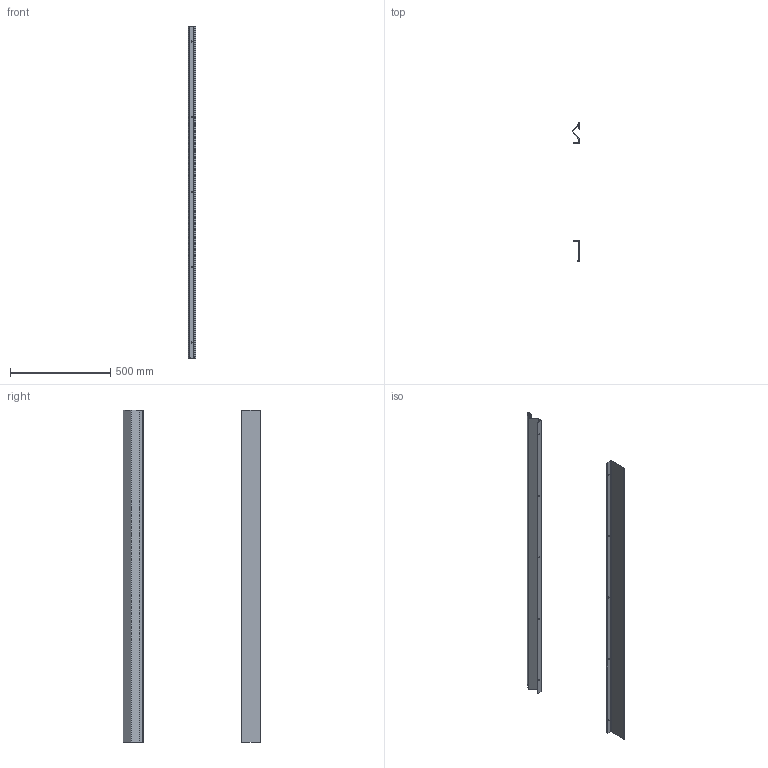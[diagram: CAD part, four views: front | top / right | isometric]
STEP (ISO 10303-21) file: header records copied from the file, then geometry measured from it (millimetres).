
FILE_DESCRIPTION (( 'STEP AP203' ), '1' );
FILE_NAME ('EUTA0035C.STEP', '2018-07-10T07:09:55', ( '' ), ( '' ), 'SwSTEP 2.0', 'SolidWorks 2017', '' );
FILE_SCHEMA (( 'CONFIG_CONTROL_DESIGN' ));
Length unit declared in the file: millimetre
Products named in the file (3): AR_Tamponamenti_lato cerniera_new_Rack_Enux_0800x1800_CEN; EUTA0035C; AR_Tamponamenti_lato chiusura_new_Rack_Enux_0800x1800_CEN
Assembly tree (2 placements, depth 2):
  EUTA0035C
    AR_Tamponamenti_lato chiusura_new_Rack_Enux_0800x1800_CEN
    AR_Tamponamenti_lato cerniera_new_Rack_Enux_0800x1800_CEN
Bounding box: 36.89 x 685.98 x 1654 mm (x, y, z)
Volume: 1040373.8 mm3; surface area: 1048082.7 mm2
Topology: 2 solids, 2 shells, 67 faces, 187 edges, 124 vertices
Faces by surface type: cylinder 40, plane 27
Entity records: 2530 total; most frequent: DIRECTION 411, CARTESIAN_POINT 383, ORIENTED_EDGE 374, EDGE_CURVE 187, AXIS2_PLACEMENT_3D 152, VERTEX_POINT 124, LINE 107, VECTOR 107
